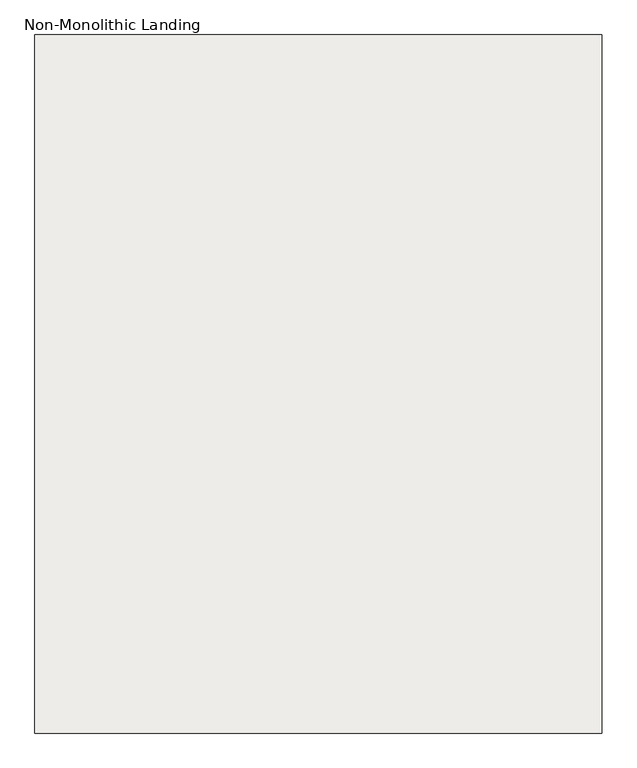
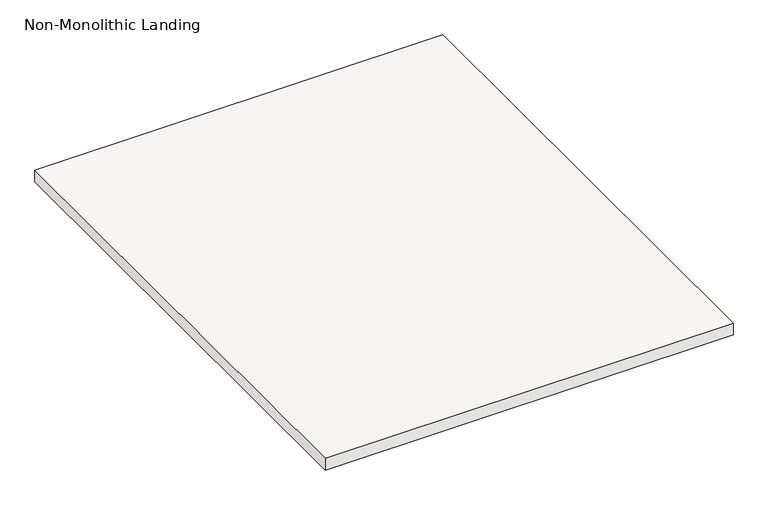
"""IFC4 building model written with IfcOpenShell, lengths in millimetres: slab geometry, Non-Monolithic Landing."""

from ifc_helpers import new_model, si_unit, frame, origin, place, context, project, spatial, polyline, outline, extrude, source, transform, mapped, element, save


def non_monolithic_landing_f33ca80b(model_context):
    return source(origin(), model_context, "Body", "SweptSolid", [
        extrude(outline(polyline([(76387.3573777, 23923.3920265), (76387.3573777, 21873.3920265), (74722.3573777, 21873.3920265), (74722.3573777, 23923.3920265), (76387.3573777, 23923.3920265)])), frame((0.0, 0.0, -7724.8141901), z_axis=(0.0, 0.0, 1.0), x_axis=(1.0, 0.0, 0.0)), (0.0, 0.0, 1.0), 50.8),
    ])


if __name__ == "__main__":
    model = new_model("IFC4")
    model_context = context("Model", 3, world=origin())
    ifc_project = project(units=[si_unit("LENGTHUNIT", "METRE", prefix="MILLI")], contexts=[model_context])
    site = spatial("IfcSite", under=ifc_project)
    building = spatial("IfcBuilding", under=site)
    placement = place(None, origin())
    non_monolithic_landing_shape = non_monolithic_landing_f33ca80b(model_context)
    element("IfcSlab", 1, ObjectType="Non-Monolithic Landing", at=placement, inside=building, context=model_context, shape_type="MappedRepresentation", body=[
        mapped(non_monolithic_landing_shape, transform((0.0, 0.0, 0.0), x_axis=(1.0, 0.0, 0.0), y_axis=(0.0, 1.0, 0.0), z_axis=(0.0, 0.0, 1.0))),
    ])
    save(model, "model.ifc")
